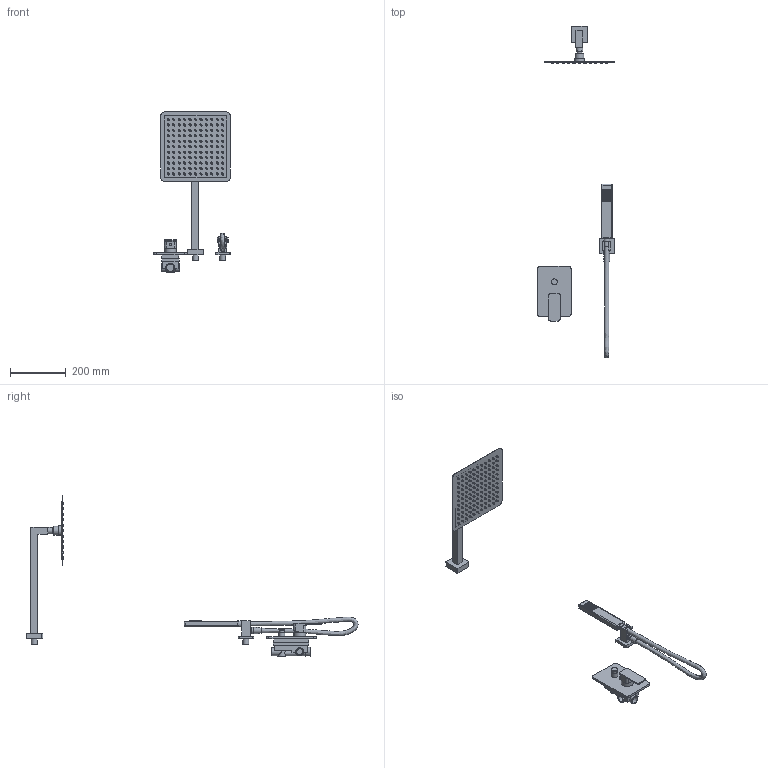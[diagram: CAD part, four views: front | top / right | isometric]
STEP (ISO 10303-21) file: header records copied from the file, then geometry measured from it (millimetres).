
FILE_DESCRIPTION(/* description */ ('CARRÉ Zestaw natryskowy podtynkowy','CAx-IF Rec.Pracs.---Representation and Presentation of Product Manufacturing Information (PMI)---4.0---2014-10-13'),/* implementation_level */ '2;1');
FILE_NAME(/* name */ 'C:\Nextcloud\02_biblioteki_cad\Valvex\Projekt\PROJECTS\ETAP 1\ponowny eksport\2449980\2449980.stp',/* time_stamp */ '2022-12-05T14:00:16+01:00',/* author */ ('Alan Batog'),/* organization */ (''),/* preprocessor_version */ 'ST-DEVELOPER v18.1',/* originating_system */ 'Autodesk Inventor 2022',/* authorisation */ '');
FILE_SCHEMA (('AP242_MANAGED_MODEL_BASED_3D_ENGINEERING_MIM_LF { 1 0 10303 442 1 1 4 }'));
Length unit declared in the file: millimetre
Products named in the file (9): 2449980; 2449980_przylacze_katowe; 2449980_waz; 2449980_sluchawka; 2454980; 2449980_deszczownica; 2455570; Bryła2; 2449980_dysze_deszczownica
Assembly tree (8 placements, depth 2):
  2449980
    2449980_przylacze_katowe
    2449980_waz
    2449980_sluchawka
    2454980
    2449980_deszczownica
    2455570
    Bryła2
    2449980_dysze_deszczownica
Bounding box: 275 x 1188.88 x 574.5 mm (x, y, z)
Volume: 1674581.6 mm3; surface area: 409282.3 mm2
Topology: 330 solids, 330 shells, 1409 faces, 2130 edges, 1410 vertices
Faces by surface type: plane 1079, cone 247, cylinder 71, sphere 9, torus 2, bspline 1
Full cylindrical faces by diameter (mm): 6 x2, 9 x1, 16.5 x1, 18 x3, 19 x1, 21 x11, 23 x2, 26 x1, 28 x4, 31 x1, 32 x1, 34 x1, 42 x1
Entity records: 32816 total; most frequent: CARTESIAN_POINT 6092, DIRECTION 5815, ORIENTED_EDGE 4258, AXIS2_PLACEMENT_3D 2171, EDGE_CURVE 2129, LINE 1473, VECTOR 1473, EDGE_LOOP 1443
